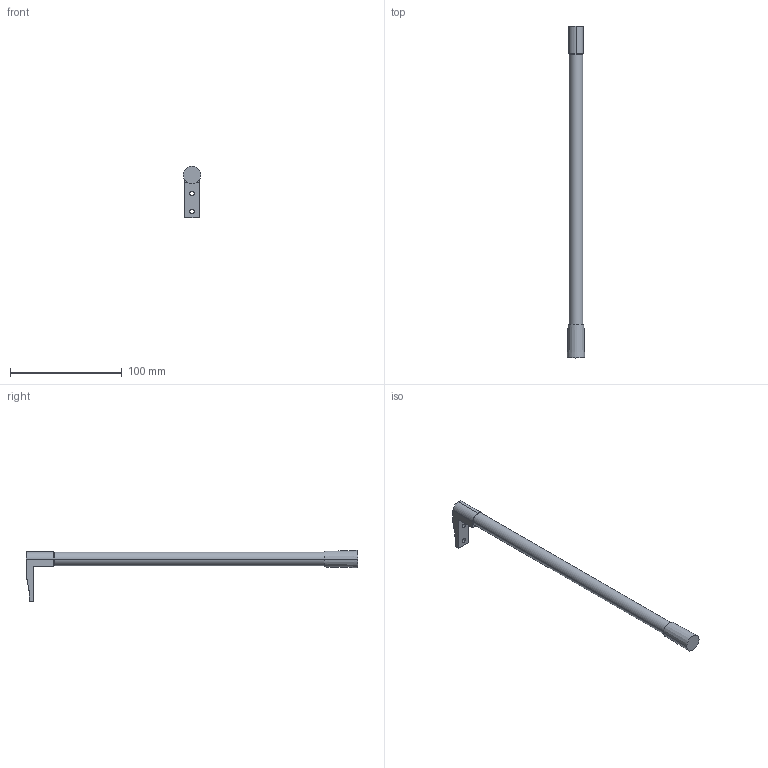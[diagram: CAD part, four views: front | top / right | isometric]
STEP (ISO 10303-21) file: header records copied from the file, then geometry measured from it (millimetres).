
FILE_DESCRIPTION (( 'STEP AP214' ), '1' );
FILE_NAME ('IMOS_Anschraubreling_Set_NL350.step', '2010-10-07T16:15:21', ( 'Grass' ), ( '' ), 'SwSTEP 2.0', 'SolidWorks 2010', '' );
FILE_SCHEMA (( 'AUTOMOTIVE_DESIGN' ));
Length unit declared in the file: millimetre
Products named in the file (1): IMOS_Anschraubreling_Set_NL350
Bounding box: 15.5 x 296.9 x 45.75 mm (x, y, z)
Volume: 38439.5 mm3; surface area: 13381.7 mm2
Topology: 1 solids, 1 shells, 24 faces, 57 edges, 38 vertices
Faces by surface type: plane 12, cylinder 10, cone 2
Entity records: 745 total; most frequent: DIRECTION 127, CARTESIAN_POINT 126, ORIENTED_EDGE 114, EDGE_CURVE 57, AXIS2_PLACEMENT_3D 47, VERTEX_POINT 38, LINE 33, VECTOR 33
